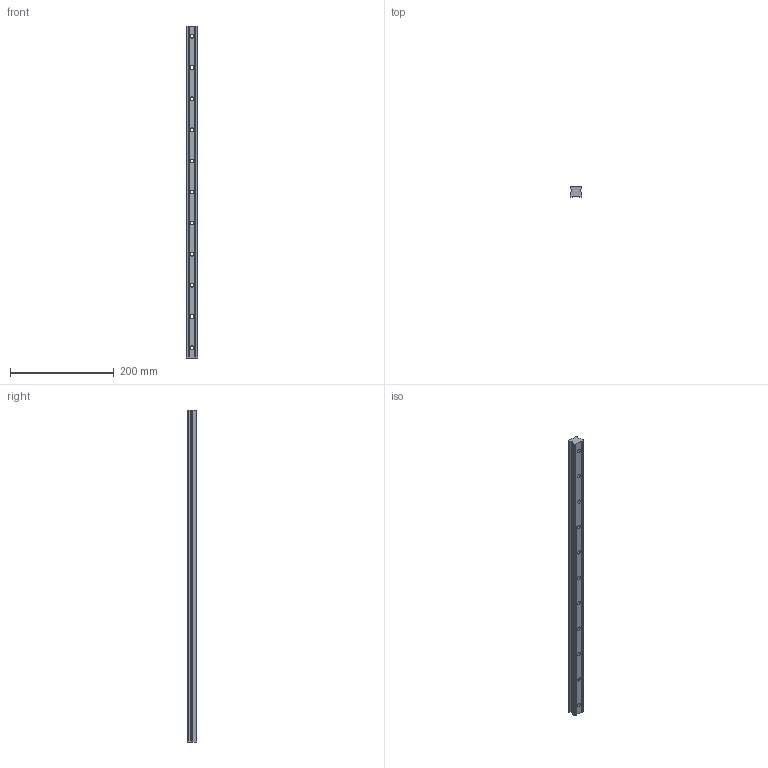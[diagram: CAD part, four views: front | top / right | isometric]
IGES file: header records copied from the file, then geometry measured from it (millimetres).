
Start section: SolidWorks IGES file using analytic representation for surfaces
Global section: file name: C:\Users\IanO\Desktop\L1016_v2\L1016.BL25_v2\L1016.BL25_v2_20160611_IGES\L1016.BL25-0640.igs; native system: SolidWorks 2017; preprocessor: SolidWorks 2017; author: IanO; date: 190612.130525; units: millimetre
Bounding box: 23 x 19.2 x 640 mm (x, y, z)
Surface area: 61276.2 mm2 (no closed solid volume)
Topology: 0 solids, 0 shells, 81 faces, 1752 edges, 1752 vertices
Faces by surface type: revolution 48, bspline 33
